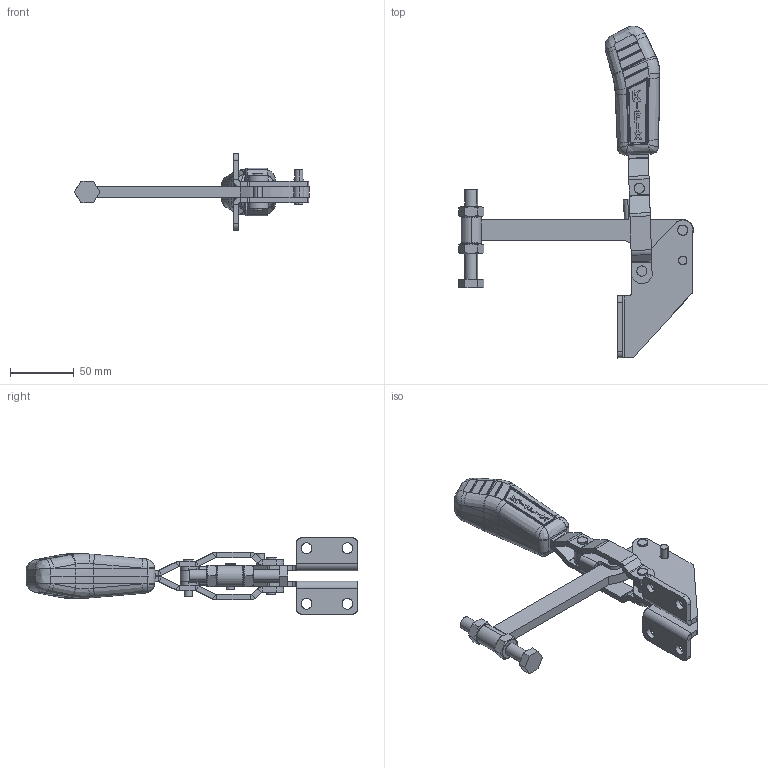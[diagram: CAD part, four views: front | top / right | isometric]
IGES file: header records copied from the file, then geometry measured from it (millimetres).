
Start section: SolidWorks IGES file using analytic representation for surfaces
Global section: file name: C:\Projetos\Grampos\KF-311\KF-311 DS\KF-311 DS.IGS; native system: SolidWorks 2013; preprocessor: SolidWorks 2013; author: Ricardo; date: 140731.142139; units: millimetre
Bounding box: 183.75 x 259.79 x 60 mm (x, y, z)
Surface area: 75889.9 mm2 (no closed solid volume)
Topology: 0 solids, 0 shells, 753 faces, 8130 edges, 8099 vertices
Faces by surface type: bspline 463, revolution 290
